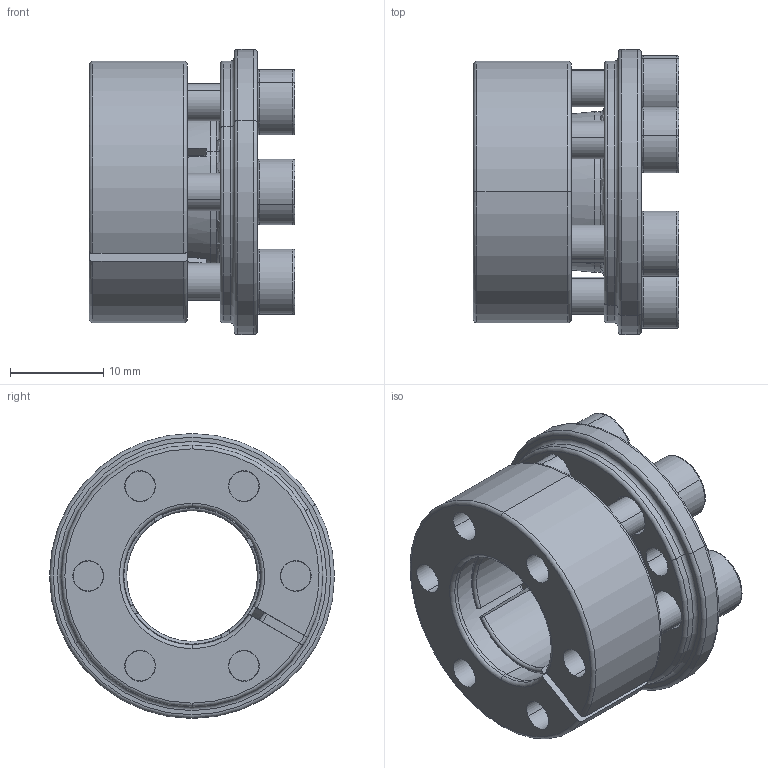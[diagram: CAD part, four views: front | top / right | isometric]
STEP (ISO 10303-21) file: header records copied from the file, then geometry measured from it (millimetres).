
FILE_DESCRIPTION (( 'STEP AP203' ), '1' );
FILE_NAME ('SAPA-14-28-45C.STEP', '2013-01-22T07:01:18', ( '' ), ( '' ), 'SwSTEP 2.0', 'SolidWorks 2012', '' );
FILE_SCHEMA (( 'CONFIG_CONTROL_DESIGN' ));
Length unit declared in the file: millimetre
Products named in the file (1): SAPA-14-28-45C
Bounding box: 22 x 30.5 x 30.5 mm (x, y, z)
Volume: 7757 mm3; surface area: 6102 mm2
Topology: 1 solids, 1 shells, 288 faces, 715 edges, 428 vertices
Faces by surface type: plane 113, cylinder 78, torus 68, cone 29
Entity records: 8783 total; most frequent: CARTESIAN_POINT 1690, DIRECTION 1604, ORIENTED_EDGE 1406, EDGE_CURVE 703, AXIS2_PLACEMENT_3D 662, VERTEX_POINT 428, CIRCLE 373, EDGE_LOOP 325
